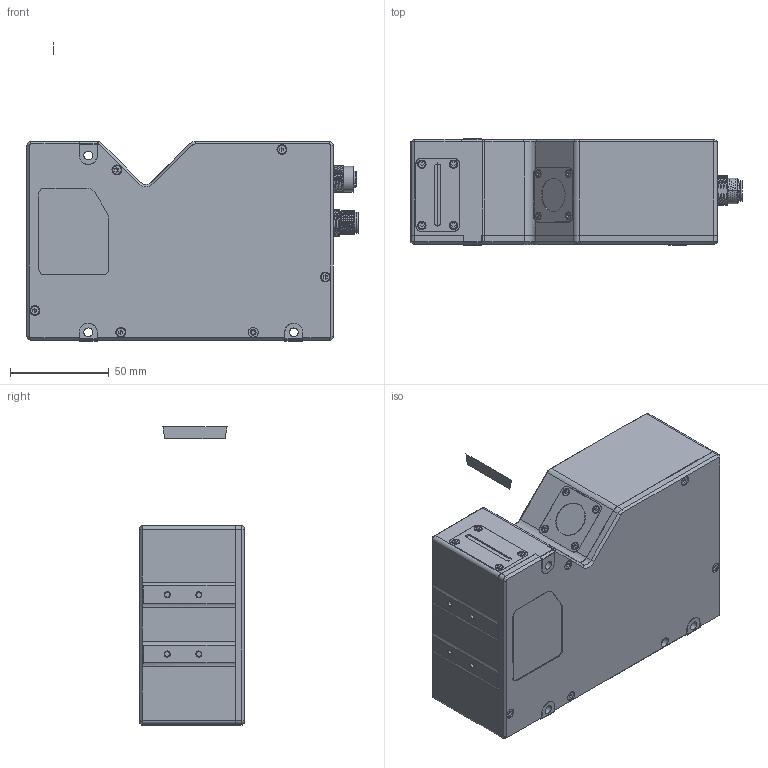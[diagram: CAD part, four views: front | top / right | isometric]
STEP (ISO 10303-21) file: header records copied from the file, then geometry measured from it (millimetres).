
FILE_DESCRIPTION((''),'2;1');
FILE_NAME('MV-DP2050-01P','2025-07-24T19:09:24',('wangminrui'),(''),'CREO PARAMETRIC BY PTC INC, 2020044','CREO PARAMETRIC BY PTC INC, 2020044','');
FILE_SCHEMA(('CONFIG_CONTROL_DESIGN'));
Products named in the file (1): MV-DP2050-01P
Bounding box: 168 x 53.5 x 151 mm (x, y, z)
Surface area: 64646.9 mm2 (no closed solid volume)
Topology: 0 solids, 51 shells, 703 faces, 2298 edges, 1653 vertices
Faces by surface type: plane 254, cylinder 238, cone 124, bspline 57, torus 30
Entity records: 44231 total; most frequent: CARTESIAN_POINT 24867, ORIENTED_EDGE 3894, DIRECTION 3772, EDGE_CURVE 2282, VERTEX_POINT 1653, AXIS2_PLACEMENT_3D 1390, VECTOR 992, LINE 992
